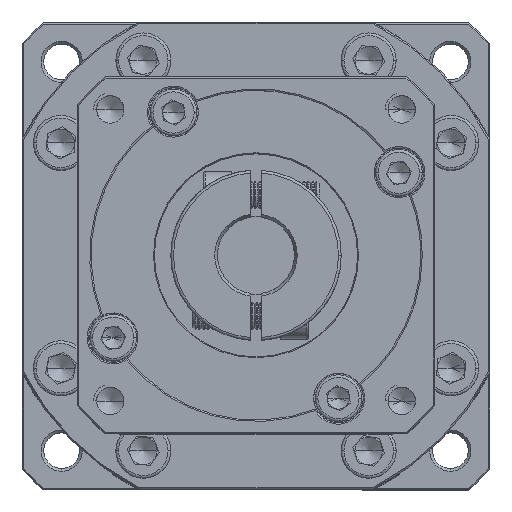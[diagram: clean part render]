
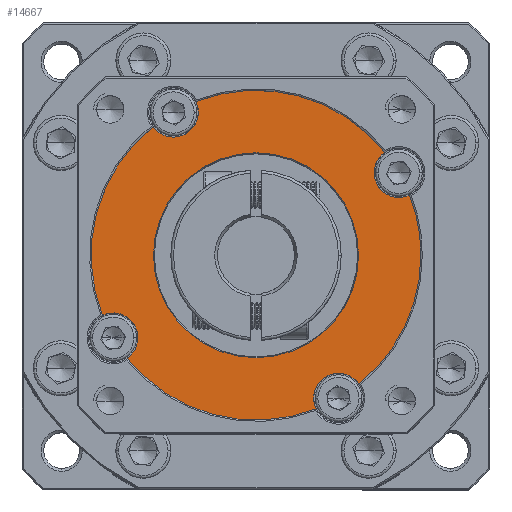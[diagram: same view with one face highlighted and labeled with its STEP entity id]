
A CAD part, top view. The second image highlights one B-rep face of the part: STEP entity #14667.
In plain terms, the highlighted planar face has unit normal (0, 0, 1).
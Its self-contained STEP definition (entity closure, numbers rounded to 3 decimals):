
#678 = DIRECTION ( 'NONE',  ( 1., 0., 0. ) ) ;
#736 = ORIENTED_EDGE ( 'NONE', *, *, #54646, .F. ) ;
#1078 = ORIENTED_EDGE ( 'NONE', *, *, #81552, .T. ) ;
#2625 = PLANE ( 'NONE',  #96022 ) ;
#3838 = CARTESIAN_POINT ( 'NONE',  ( -36.233, 74.129, 10.67 ) ) ;
#6904 = DIRECTION ( 'NONE',  ( 0., 0., 1. ) ) ;
#8764 = VERTEX_POINT ( 'NONE', #19163 ) ;
#9373 = CARTESIAN_POINT ( 'NONE',  ( -62.214, 59.129, 10.67 ) ) ;
#9676 = DIRECTION ( 'NONE',  ( 1., 0., 0. ) ) ;
#10163 = ORIENTED_EDGE ( 'NONE', *, *, #84571, .T. ) ;
#10733 = FACE_BOUND ( 'NONE', #62992, .T. ) ;
#11166 = CARTESIAN_POINT ( 'NONE',  ( -80.932, 82.574, 10.67 ) ) ;
#11611 = CIRCLE ( 'NONE', #102132, 18.644 ) ;
#12505 = CARTESIAN_POINT ( 'NONE',  ( -62.214, 59.129, 10.67 ) ) ;
#13842 = CARTESIAN_POINT ( 'NONE',  ( -51.714, 33.148, 10.67 ) ) ;
#14667 = ADVANCED_FACE ( 'NONE', ( #10733, #118554 ), #2625, .T. ) ;
#16987 = DIRECTION ( 'NONE',  ( 0., 0., 1. ) ) ;
#17312 = DIRECTION ( 'NONE',  ( 0., 0., 1. ) ) ;
#17360 = ORIENTED_EDGE ( 'NONE', *, *, #43108, .F. ) ;
#18603 = CIRCLE ( 'NONE', #63711, 4.5 ) ;
#19163 = CARTESIAN_POINT ( 'NONE',  ( -51.269, 31.197, 10.67 ) ) ;
#21973 = CARTESIAN_POINT ( 'NONE',  ( -77.214, 85.109, 10.67 ) ) ;
#22231 = EDGE_CURVE ( 'NONE', #86095, #25253, #11611, .T. ) ;
#25253 = VERTEX_POINT ( 'NONE', #78541 ) ;
#25536 = DIRECTION ( 'NONE',  ( 1., 0., 0. ) ) ;
#25965 = CARTESIAN_POINT ( 'NONE',  ( -62.214, 59.129, 10.67 ) ) ;
#26696 = AXIS2_PLACEMENT_3D ( 'NONE', #64490, #124684, #84640 ) ;
#30210 = ORIENTED_EDGE ( 'NONE', *, *, #71923, .F. ) ;
#31355 = CARTESIAN_POINT ( 'NONE',  ( -83.695, 44.129, 10.67 ) ) ;
#32989 = CIRCLE ( 'NONE', #79358, 30. ) ;
#35116 = VERTEX_POINT ( 'NONE', #52127 ) ;
#36931 = CIRCLE ( 'NONE', #85738, 4.5 ) ;
#37782 = DIRECTION ( 'NONE',  ( 1., 0., 0. ) ) ;
#37981 = CIRCLE ( 'NONE', #109477, 30. ) ;
#38128 = AXIS2_PLACEMENT_3D ( 'NONE', #49639, #108119, #118650 ) ;
#39003 = CARTESIAN_POINT ( 'NONE',  ( -88.195, 44.129, 10.67 ) ) ;
#39737 = EDGE_CURVE ( 'NONE', #76064, #52192, #18603, .T. ) ;
#41696 = VERTEX_POINT ( 'NONE', #31355 ) ;
#41904 = CARTESIAN_POINT ( 'NONE',  ( -36.233, 74.129, 10.67 ) ) ;
#42011 = DIRECTION ( 'NONE',  ( 1., 0., 0. ) ) ;
#42330 = DIRECTION ( 'NONE',  ( 1., 0., 0. ) ) ;
#43041 = ORIENTED_EDGE ( 'NONE', *, *, #71484, .T. ) ;
#43108 = EDGE_CURVE ( 'NONE', #72019, #89168, #94998, .T. ) ;
#43678 = CARTESIAN_POINT ( 'NONE',  ( -90.146, 48.184, 10.67 ) ) ;
#44078 = CIRCLE ( 'NONE', #113588, 4.5 ) ;
#44154 = AXIS2_PLACEMENT_3D ( 'NONE', #105389, #6904, #125395 ) ;
#44330 = EDGE_CURVE ( 'NONE', #52192, #60566, #95927, .T. ) ;
#47492 = ORIENTED_EDGE ( 'NONE', *, *, #39737, .F. ) ;
#47512 = CARTESIAN_POINT ( 'NONE',  ( -34.282, 70.074, 10.67 ) ) ;
#49241 = DIRECTION ( 'NONE',  ( 0., 0., 1. ) ) ;
#49639 = CARTESIAN_POINT ( 'NONE',  ( -62.214, 59.129, 10.67 ) ) ;
#49979 = DIRECTION ( 'NONE',  ( 0., 0., 1. ) ) ;
#51514 = DIRECTION ( 'NONE',  ( 0., 0., 1. ) ) ;
#51824 = DIRECTION ( 'NONE',  ( 0., 0., 1. ) ) ;
#52127 = CARTESIAN_POINT ( 'NONE',  ( -38.769, 77.846, 10.67 ) ) ;
#52192 = VERTEX_POINT ( 'NONE', #97440 ) ;
#54233 = DIRECTION ( 'NONE',  ( 0., 0., 1. ) ) ;
#54646 = EDGE_CURVE ( 'NONE', #68963, #41696, #36931, .T. ) ;
#55244 = CARTESIAN_POINT ( 'NONE',  ( -62.214, 59.129, 10.67 ) ) ;
#56824 = AXIS2_PLACEMENT_3D ( 'NONE', #111144, #70132, #91059 ) ;
#58104 = ORIENTED_EDGE ( 'NONE', *, *, #102384, .F. ) ;
#58635 = ORIENTED_EDGE ( 'NONE', *, *, #60171, .T. ) ;
#59348 = DIRECTION ( 'NONE',  ( 0., 0., 1. ) ) ;
#60171 = EDGE_CURVE ( 'NONE', #72019, #95176, #110310, .T. ) ;
#60566 = VERTEX_POINT ( 'NONE', #86879 ) ;
#61154 = DIRECTION ( 'NONE',  ( 0., 0., 1. ) ) ;
#61496 = ORIENTED_EDGE ( 'NONE', *, *, #72238, .T. ) ;
#62992 = EDGE_LOOP ( 'NONE', ( #1078, #90397 ) ) ;
#63711 = AXIS2_PLACEMENT_3D ( 'NONE', #21973, #51514, #42011 ) ;
#64490 = CARTESIAN_POINT ( 'NONE',  ( -62.214, 59.129, 10.67 ) ) ;
#66131 = VERTEX_POINT ( 'NONE', #110697 ) ;
#67052 = CARTESIAN_POINT ( 'NONE',  ( -85.659, 40.411, 10.67 ) ) ;
#68963 = VERTEX_POINT ( 'NONE', #67052 ) ;
#69285 = CARTESIAN_POINT ( 'NONE',  ( -32.214, 59.129, 10.67 ) ) ;
#70132 = DIRECTION ( 'NONE',  ( 0., 0., 1. ) ) ;
#70447 = VERTEX_POINT ( 'NONE', #47512 ) ;
#71484 = EDGE_CURVE ( 'NONE', #95176, #70447, #94243, .T. ) ;
#71923 = EDGE_CURVE ( 'NONE', #66131, #70447, #44078, .T. ) ;
#72019 = VERTEX_POINT ( 'NONE', #84448 ) ;
#72238 = EDGE_CURVE ( 'NONE', #76064, #85720, #32989, .T. ) ;
#72685 = DIRECTION ( 'NONE',  ( 1., 0., 0. ) ) ;
#76063 = DIRECTION ( 'NONE',  ( 0., 0., -1. ) ) ;
#76064 = VERTEX_POINT ( 'NONE', #11166 ) ;
#77083 = EDGE_CURVE ( 'NONE', #89168, #8764, #122232, .T. ) ;
#78541 = CARTESIAN_POINT ( 'NONE',  ( -43.57, 59.129, 10.67 ) ) ;
#79139 = CIRCLE ( 'NONE', #113719, 30. ) ;
#79358 = AXIS2_PLACEMENT_3D ( 'NONE', #9373, #119239, #678 ) ;
#79702 = DIRECTION ( 'NONE',  ( 1., 0., 0. ) ) ;
#80828 = DIRECTION ( 'NONE',  ( 1., 0., 0. ) ) ;
#80894 = DIRECTION ( 'NONE',  ( 1., 0., 0. ) ) ;
#81552 = EDGE_CURVE ( 'NONE', #25253, #86095, #97411, .T. ) ;
#82144 = ORIENTED_EDGE ( 'NONE', *, *, #77083, .F. ) ;
#82360 = DIRECTION ( 'NONE',  ( 0., 0., 1. ) ) ;
#84448 = CARTESIAN_POINT ( 'NONE',  ( -43.497, 35.684, 10.67 ) ) ;
#84571 = EDGE_CURVE ( 'NONE', #68963, #8764, #37981, .T. ) ;
#84640 = DIRECTION ( 'NONE',  ( 1., 0., 0. ) ) ;
#84810 = AXIS2_PLACEMENT_3D ( 'NONE', #12505, #61154, #80894 ) ;
#85210 = CIRCLE ( 'NONE', #119437, 4.5 ) ;
#85720 = VERTEX_POINT ( 'NONE', #43678 ) ;
#85738 = AXIS2_PLACEMENT_3D ( 'NONE', #117598, #17312, #37782 ) ;
#85861 = DIRECTION ( 'NONE',  ( 1., 0., 0. ) ) ;
#86095 = VERTEX_POINT ( 'NONE', #108105 ) ;
#86879 = CARTESIAN_POINT ( 'NONE',  ( -73.159, 87.061, 10.67 ) ) ;
#88471 = ORIENTED_EDGE ( 'NONE', *, *, #44330, .F. ) ;
#89168 = VERTEX_POINT ( 'NONE', #13842 ) ;
#90397 = ORIENTED_EDGE ( 'NONE', *, *, #22231, .T. ) ;
#91059 = DIRECTION ( 'NONE',  ( 1., 0., 0. ) ) ;
#91485 = CARTESIAN_POINT ( 'NONE',  ( -62.214, 59.129, 10.67 ) ) ;
#94243 = CIRCLE ( 'NONE', #26696, 30. ) ;
#94630 = ORIENTED_EDGE ( 'NONE', *, *, #120647, .T. ) ;
#94998 = CIRCLE ( 'NONE', #56824, 4.5 ) ;
#95176 = VERTEX_POINT ( 'NONE', #69285 ) ;
#95927 = CIRCLE ( 'NONE', #108846, 4.5 ) ;
#96022 = AXIS2_PLACEMENT_3D ( 'NONE', #91485, #82360, #111566 ) ;
#97411 = CIRCLE ( 'NONE', #38128, 18.644 ) ;
#97440 = CARTESIAN_POINT ( 'NONE',  ( -72.714, 85.109, 10.67 ) ) ;
#101732 = EDGE_CURVE ( 'NONE', #41696, #85720, #85210, .T. ) ;
#102132 = AXIS2_PLACEMENT_3D ( 'NONE', #25965, #76063, #25536 ) ;
#102384 = EDGE_CURVE ( 'NONE', #35116, #66131, #113175, .T. ) ;
#105389 = CARTESIAN_POINT ( 'NONE',  ( -47.214, 33.148, 10.67 ) ) ;
#106421 = ORIENTED_EDGE ( 'NONE', *, *, #101732, .F. ) ;
#108105 = CARTESIAN_POINT ( 'NONE',  ( -80.858, 59.129, 10.67 ) ) ;
#108119 = DIRECTION ( 'NONE',  ( 0., 0., -1. ) ) ;
#108846 = AXIS2_PLACEMENT_3D ( 'NONE', #119430, #49979, #79702 ) ;
#108999 = CARTESIAN_POINT ( 'NONE',  ( -62.214, 59.129, 10.67 ) ) ;
#109477 = AXIS2_PLACEMENT_3D ( 'NONE', #108999, #49241, #9676 ) ;
#110310 = CIRCLE ( 'NONE', #84810, 30. ) ;
#110697 = CARTESIAN_POINT ( 'NONE',  ( -40.733, 74.129, 10.67 ) ) ;
#111144 = CARTESIAN_POINT ( 'NONE',  ( -47.214, 33.148, 10.67 ) ) ;
#111566 = DIRECTION ( 'NONE',  ( 1., 0., 0. ) ) ;
#113175 = CIRCLE ( 'NONE', #114478, 4.5 ) ;
#113588 = AXIS2_PLACEMENT_3D ( 'NONE', #3838, #54233, #72685 ) ;
#113719 = AXIS2_PLACEMENT_3D ( 'NONE', #55244, #16987, #85861 ) ;
#114478 = AXIS2_PLACEMENT_3D ( 'NONE', #41904, #51824, #42330 ) ;
#117598 = CARTESIAN_POINT ( 'NONE',  ( -88.195, 44.129, 10.67 ) ) ;
#118554 = FACE_OUTER_BOUND ( 'NONE', #118756, .T. ) ;
#118650 = DIRECTION ( 'NONE',  ( 1., 0., 0. ) ) ;
#118756 = EDGE_LOOP ( 'NONE', ( #736, #10163, #82144, #17360, #58635, #43041, #30210, #58104, #94630, #88471, #47492, #61496, #106421 ) ) ;
#119239 = DIRECTION ( 'NONE',  ( 0., 0., 1. ) ) ;
#119430 = CARTESIAN_POINT ( 'NONE',  ( -77.214, 85.109, 10.67 ) ) ;
#119437 = AXIS2_PLACEMENT_3D ( 'NONE', #39003, #59348, #80828 ) ;
#120647 = EDGE_CURVE ( 'NONE', #35116, #60566, #79139, .T. ) ;
#122232 = CIRCLE ( 'NONE', #44154, 4.5 ) ;
#124684 = DIRECTION ( 'NONE',  ( 0., 0., 1. ) ) ;
#125395 = DIRECTION ( 'NONE',  ( 1., 0., 0. ) ) ;
